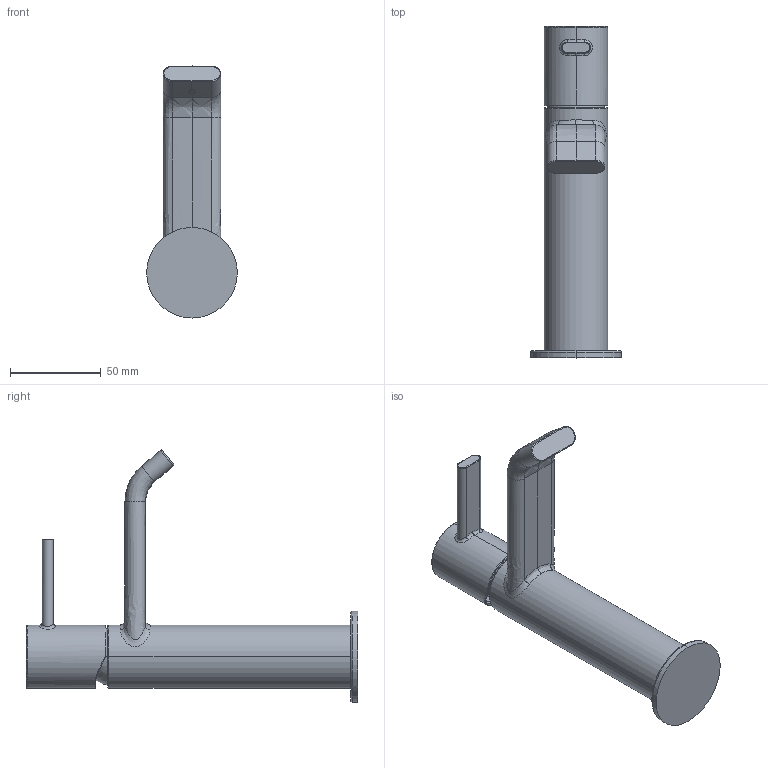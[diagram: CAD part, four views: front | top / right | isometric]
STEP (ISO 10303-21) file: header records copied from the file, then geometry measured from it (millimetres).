
FILE_DESCRIPTION((''),'2;1');
FILE_NAME('5-06604-000D3','2024-08-05T13:47:30',('mitkla01'),(''),'CREO PARAMETRIC BY PTC INC, 2023352','CREO PARAMETRIC BY PTC INC, 2023352','');
FILE_SCHEMA(('CONFIG_CONTROL_DESIGN','SHAPE_APPEARANCE_LAYERS_GROUPS'));
Length unit declared in the file: millimetre
Products named in the file (1): 5-06604-000D3
Bounding box: 50 x 183.2 x 139.09 mm (x, y, z)
Surface area: 43996.7 mm2 (no closed solid volume)
Topology: 0 solids, 10 shells, 280 faces, 681 edges, 401 vertices
Faces by surface type: bspline 120, cylinder 59, plane 51, torus 25, cone 14, sphere 11
Entity records: 18032 total; most frequent: CARTESIAN_POINT 10594, ORIENTED_EDGE 1295, DIRECTION 929, EDGE_CURVE 675, VERTEX_POINT 401, AXIS2_PLACEMENT_3D 373, EDGE_LOOP 280, FACE_OUTER_BOUND 280
